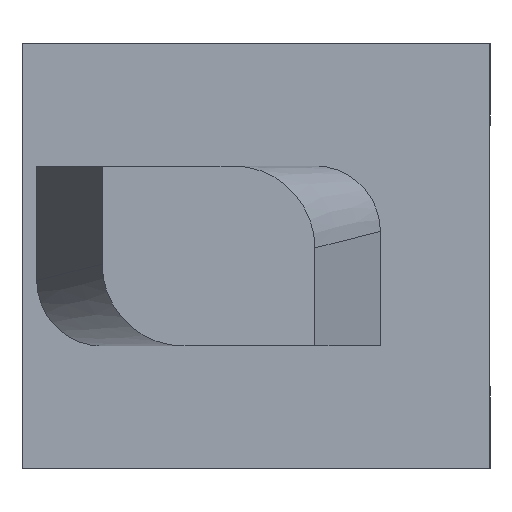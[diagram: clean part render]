
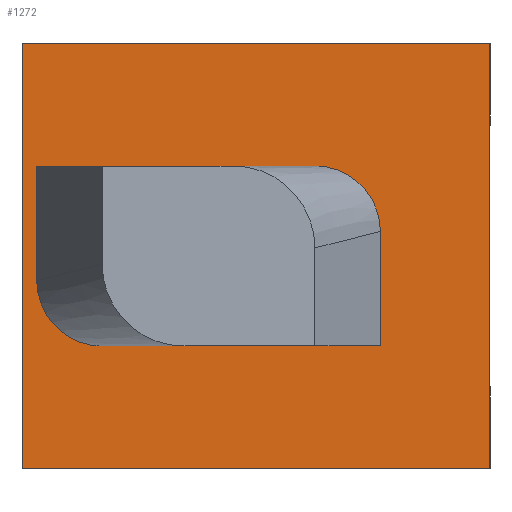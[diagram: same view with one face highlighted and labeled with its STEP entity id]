
A CAD part, left-side view. The second image highlights one B-rep face of the part: STEP entity #1272.
In plain terms, the highlighted planar face has unit normal (-1, 0, 0).
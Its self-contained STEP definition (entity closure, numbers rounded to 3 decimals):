
#376=CARTESIAN_POINT('',(-11.641,-11.956,6.75));
#377=VERTEX_POINT('',#376);
#384=CARTESIAN_POINT('',(-11.641,-9.456,9.25));
#385=VERTEX_POINT('',#384);
#386=CARTESIAN_POINT('',(-11.641,-9.456,6.75));
#387=DIRECTION('',(1.,0.0,0.0));
#388=DIRECTION('',(0.0,-0.707,0.707));
#389=AXIS2_PLACEMENT_3D('',#386,#387,#388);
#390=CIRCLE('',#389,2.5);
#391=EDGE_CURVE('',#377,#385,#390,.F.);
#409=CARTESIAN_POINT('',(-11.641,-11.956,3.75));
#410=VERTEX_POINT('',#409);
#417=CARTESIAN_POINT('',(-11.641,-11.956,6.75));
#418=DIRECTION('',(0.0,0.0,-1.0));
#419=VECTOR('',#418,3.0);
#420=LINE('',#417,#419);
#421=EDGE_CURVE('',#377,#410,#420,.T.);
#432=CARTESIAN_POINT('',(-11.641,-5.456,6.25));
#433=VERTEX_POINT('',#432);
#440=CARTESIAN_POINT('',(-11.641,-7.956,3.75));
#441=VERTEX_POINT('',#440);
#442=CARTESIAN_POINT('',(-11.641,-7.956,6.25));
#443=DIRECTION('',(1.,0.0,0.0));
#444=DIRECTION('',(0.0,0.707,-0.707));
#445=AXIS2_PLACEMENT_3D('',#442,#443,#444);
#446=CIRCLE('',#445,2.5);
#447=EDGE_CURVE('',#433,#441,#446,.F.);
#464=CARTESIAN_POINT('',(-11.641,-11.956,3.75));
#465=DIRECTION('',(0.0,1.0,0.0));
#466=VECTOR('',#465,4.);
#467=LINE('',#464,#466);
#468=EDGE_CURVE('',#410,#441,#467,.T.);
#485=CARTESIAN_POINT('',(-11.641,-5.456,9.25));
#486=VERTEX_POINT('',#485);
#487=CARTESIAN_POINT('',(-11.641,-5.456,9.25));
#488=DIRECTION('',(0.0,-1.0,0.0));
#489=VECTOR('',#488,4.);
#490=LINE('',#487,#489);
#491=EDGE_CURVE('',#486,#385,#490,.T.);
#515=CARTESIAN_POINT('',(-11.641,-5.456,6.25));
#516=DIRECTION('',(0.0,0.0,1.0));
#517=VECTOR('',#516,3.0);
#518=LINE('',#515,#517);
#519=EDGE_CURVE('',#433,#486,#518,.T.);
#1206=CARTESIAN_POINT('',(-11.641,-17.306,13.0));
#1207=VERTEX_POINT('',#1206);
#1214=CARTESIAN_POINT('',(-11.641,-17.306,0.0));
#1215=VERTEX_POINT('',#1214);
#1216=CARTESIAN_POINT('',(-11.641,-17.306,0.0));
#1217=DIRECTION('',(0.0,0.0,1.0));
#1218=VECTOR('',#1217,13.0);
#1219=LINE('',#1216,#1218);
#1220=EDGE_CURVE('',#1215,#1207,#1219,.T.);
#1234=CARTESIAN_POINT('',(-11.641,-17.306,0.0));
#1235=DIRECTION('',(-1.0,0.0,0.0));
#1236=DIRECTION('',(0.0,0.0,1.0));
#1237=AXIS2_PLACEMENT_3D('',#1234,#1235,#1236);
#1238=PLANE('',#1237);
#1239=CARTESIAN_POINT('',(-11.641,-3.006,13.0));
#1240=VERTEX_POINT('',#1239);
#1241=CARTESIAN_POINT('',(-11.641,-17.306,13.0));
#1242=DIRECTION('',(0.0,1.0,0.0));
#1243=VECTOR('',#1242,14.3);
#1244=LINE('',#1241,#1243);
#1245=EDGE_CURVE('',#1207,#1240,#1244,.T.);
#1246=ORIENTED_EDGE('',*,*,#1245,.T.);
#1247=CARTESIAN_POINT('',(-11.641,-3.006,0.0));
#1248=VERTEX_POINT('',#1247);
#1249=CARTESIAN_POINT('',(-11.641,-3.006,0.0));
#1250=DIRECTION('',(0.0,0.0,1.0));
#1251=VECTOR('',#1250,13.0);
#1252=LINE('',#1249,#1251);
#1253=EDGE_CURVE('',#1248,#1240,#1252,.T.);
#1254=ORIENTED_EDGE('',*,*,#1253,.F.);
#1255=CARTESIAN_POINT('',(-11.641,-17.306,0.0));
#1256=DIRECTION('',(0.0,1.0,0.0));
#1257=VECTOR('',#1256,14.3);
#1258=LINE('',#1255,#1257);
#1259=EDGE_CURVE('',#1215,#1248,#1258,.T.);
#1260=ORIENTED_EDGE('',*,*,#1259,.F.);
#1261=ORIENTED_EDGE('',*,*,#1220,.T.);
#1262=EDGE_LOOP('',(#1246,#1254,#1260,#1261));
#1263=FACE_OUTER_BOUND('',#1262,.T.);
#1264=ORIENTED_EDGE('',*,*,#491,.T.);
#1265=ORIENTED_EDGE('',*,*,#391,.F.);
#1266=ORIENTED_EDGE('',*,*,#421,.T.);
#1267=ORIENTED_EDGE('',*,*,#468,.T.);
#1268=ORIENTED_EDGE('',*,*,#447,.F.);
#1269=ORIENTED_EDGE('',*,*,#519,.T.);
#1270=EDGE_LOOP('',(#1264,#1265,#1266,#1267,#1268,#1269));
#1271=FACE_BOUND('',#1270,.T.);
#1272=ADVANCED_FACE('',(#1263,#1271),#1238,.T.);
